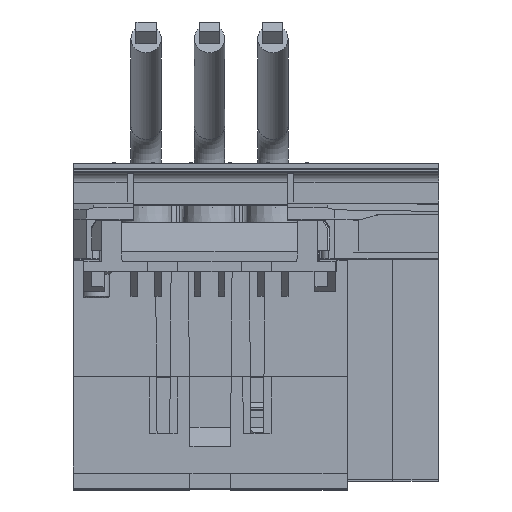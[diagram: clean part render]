
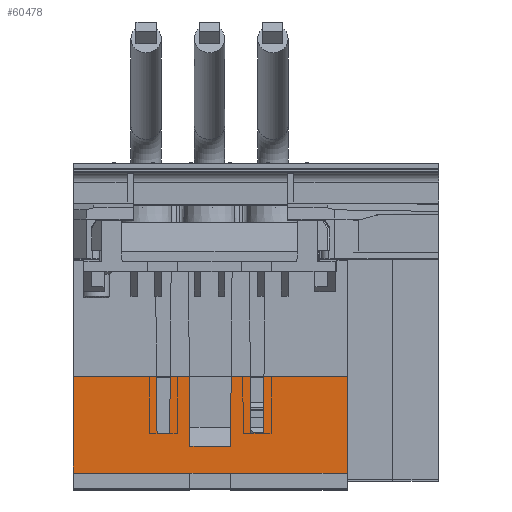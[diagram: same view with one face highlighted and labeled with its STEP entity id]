
A CAD part, top view. The second image highlights one B-rep face of the part: STEP entity #60478.
In plain terms, the highlighted planar face has unit normal (0, -0.009, 1).
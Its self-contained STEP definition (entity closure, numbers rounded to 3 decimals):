
#1130 = EDGE_CURVE ( 'NONE', #81500, #90103, #56334, .T. ) ;
#2274 = CARTESIAN_POINT ( 'NONE',  ( -4.003, -18.18, 199.88 ) ) ;
#2302 = ORIENTED_EDGE ( 'NONE', *, *, #47368, .T. ) ;
#3542 = VERTEX_POINT ( 'NONE', #24533 ) ;
#5337 = VERTEX_POINT ( 'NONE', #57671 ) ;
#6355 = ORIENTED_EDGE ( 'NONE', *, *, #41739, .T. ) ;
#6389 = ORIENTED_EDGE ( 'NONE', *, *, #45812, .T. ) ;
#7468 = CARTESIAN_POINT ( 'NONE',  ( -27., -4.5, 199.999 ) ) ;
#8445 = DIRECTION ( 'NONE',  ( 0., -0.009, 1. ) ) ;
#8819 = CARTESIAN_POINT ( 'NONE',  ( -4.122, -4.5, 199.999 ) ) ;
#9846 = CARTESIAN_POINT ( 'NONE',  ( -4.003, -18.18, 199.88 ) ) ;
#10054 = LINE ( 'NONE', #13411, #95370 ) ;
#12290 = VECTOR ( 'NONE', #109488, 1000. ) ;
#12549 = LINE ( 'NONE', #18723, #51554 ) ;
#12723 = LINE ( 'NONE', #2274, #63331 ) ;
#13411 = CARTESIAN_POINT ( 'NONE',  ( -26., -18.18, 199.88 ) ) ;
#14611 = EDGE_CURVE ( 'NONE', #39818, #22008, #55502, .T. ) ;
#15810 = FACE_OUTER_BOUND ( 'NONE', #45663, .T. ) ;
#16671 = CARTESIAN_POINT ( 'NONE',  ( -26., -23.5, 199.833 ) ) ;
#17162 = EDGE_CURVE ( 'NONE', #5337, #94324, #63637, .T. ) ;
#18723 = CARTESIAN_POINT ( 'NONE',  ( -26., -15.7, 199.902 ) ) ;
#20590 = CARTESIAN_POINT ( 'NONE',  ( 10.778, 16.2, 200.18 ) ) ;
#22008 = VERTEX_POINT ( 'NONE', #51930 ) ;
#24304 = ORIENTED_EDGE ( 'NONE', *, *, #14611, .F. ) ;
#24441 = CARTESIAN_POINT ( 'NONE',  ( -10.5, -15.7, 199.902 ) ) ;
#24533 = CARTESIAN_POINT ( 'NONE',  ( 10.598, -4.5, 199.999 ) ) ;
#25458 = LINE ( 'NONE', #47133, #31195 ) ;
#25787 = DIRECTION ( 'NONE',  ( 1., 0., 0. ) ) ;
#26956 = VERTEX_POINT ( 'NONE', #45441 ) ;
#27709 = VECTOR ( 'NONE', #71106, 1000. ) ;
#28020 = CARTESIAN_POINT ( 'NONE',  ( -27., -23.5, 199.833 ) ) ;
#30930 = CARTESIAN_POINT ( 'NONE',  ( -26., -4.5, 199.999 ) ) ;
#31195 = VECTOR ( 'NONE', #58480, 1000. ) ;
#31345 = LINE ( 'NONE', #95664, #80571 ) ;
#32048 = ORIENTED_EDGE ( 'NONE', *, *, #116477, .T. ) ;
#32085 = LINE ( 'NONE', #16671, #42309 ) ;
#32114 = CARTESIAN_POINT ( 'NONE',  ( 4.003, -18.18, 199.88 ) ) ;
#32559 = VECTOR ( 'NONE', #71336, 1000. ) ;
#34275 = CARTESIAN_POINT ( 'NONE',  ( -10.5, -15.7, 199.902 ) ) ;
#35105 = LINE ( 'NONE', #58699, #56858 ) ;
#36152 = VECTOR ( 'NONE', #85270, 1000. ) ;
#37195 = ORIENTED_EDGE ( 'NONE', *, *, #17162, .F. ) ;
#38276 = CARTESIAN_POINT ( 'NONE',  ( -4., -23.5, 199.833 ) ) ;
#39818 = VERTEX_POINT ( 'NONE', #7468 ) ;
#40953 = CARTESIAN_POINT ( 'NONE',  ( -26., -4.5, 199.999 ) ) ;
#41739 = EDGE_CURVE ( 'NONE', #48025, #70082, #12723, .T. ) ;
#42309 = VECTOR ( 'NONE', #81324, 1000. ) ;
#44418 = EDGE_CURVE ( 'NONE', #67951, #22008, #49983, .T. ) ;
#44824 = VERTEX_POINT ( 'NONE', #105492 ) ;
#45083 = EDGE_CURVE ( 'NONE', #44824, #67951, #119271, .T. ) ;
#45441 = CARTESIAN_POINT ( 'NONE',  ( 10.5, -15.7, 199.902 ) ) ;
#45663 = EDGE_LOOP ( 'NONE', ( #24304, #6389, #53981, #58133, #52002, #51352, #96097, #76040, #56636, #2302, #37195, #61844, #32048, #6355, #105772, #116384, #104432, #75438 ) ) ;
#45812 = EDGE_CURVE ( 'NONE', #39818, #48089, #54061, .T. ) ;
#46448 = EDGE_CURVE ( 'NONE', #90869, #44824, #35105, .T. ) ;
#47133 = CARTESIAN_POINT ( 'NONE',  ( 4.303, 16.2, 200.18 ) ) ;
#47368 = EDGE_CURVE ( 'NONE', #110929, #94324, #81309, .T. ) ;
#47680 = VECTOR ( 'NONE', #68885, 1000. ) ;
#48025 = VERTEX_POINT ( 'NONE', #9846 ) ;
#48089 = VERTEX_POINT ( 'NONE', #28020 ) ;
#48683 = CARTESIAN_POINT ( 'NONE',  ( -27., 18.5, 200.2 ) ) ;
#48921 = VECTOR ( 'NONE', #25787, 1000. ) ;
#49983 = LINE ( 'NONE', #24441, #32559 ) ;
#51352 = ORIENTED_EDGE ( 'NONE', *, *, #74484, .T. ) ;
#51554 = VECTOR ( 'NONE', #74050, 1000. ) ;
#51930 = CARTESIAN_POINT ( 'NONE',  ( -10.598, -4.5, 199.999 ) ) ;
#52002 = ORIENTED_EDGE ( 'NONE', *, *, #1130, .T. ) ;
#53273 = DIRECTION ( 'NONE',  ( 0., 1., 0.009 ) ) ;
#53668 = CARTESIAN_POINT ( 'NONE',  ( 27., 18.5, 200.2 ) ) ;
#53981 = ORIENTED_EDGE ( 'NONE', *, *, #95976, .T. ) ;
#54061 = LINE ( 'NONE', #48683, #72818 ) ;
#55120 = VERTEX_POINT ( 'NONE', #38276 ) ;
#55244 = EDGE_CURVE ( 'NONE', #90869, #70082, #31345, .T. ) ;
#55502 = LINE ( 'NONE', #30930, #95912 ) ;
#56334 = LINE ( 'NONE', #87052, #102480 ) ;
#56636 = ORIENTED_EDGE ( 'NONE', *, *, #107790, .T. ) ;
#56858 = VECTOR ( 'NONE', #59084, 1000. ) ;
#57671 = CARTESIAN_POINT ( 'NONE',  ( 4.122, -4.5, 199.999 ) ) ;
#58133 = ORIENTED_EDGE ( 'NONE', *, *, #58273, .T. ) ;
#58273 = EDGE_CURVE ( 'NONE', #55120, #81500, #32085, .T. ) ;
#58480 = DIRECTION ( 'NONE',  ( -0.009, -1., -0.009 ) ) ;
#58699 = CARTESIAN_POINT ( 'NONE',  ( -7.722, 16.2, 200.18 ) ) ;
#59084 = DIRECTION ( 'NONE',  ( -0.009, -1., -0.009 ) ) ;
#60478 = ADVANCED_FACE ( 'NONE', ( #15810 ), #79651, .T. ) ;
#60488 = CARTESIAN_POINT ( 'NONE',  ( 7.902, -4.5, 199.999 ) ) ;
#61844 = ORIENTED_EDGE ( 'NONE', *, *, #63973, .T. ) ;
#62260 = CARTESIAN_POINT ( 'NONE',  ( 4., -23.5, 199.833 ) ) ;
#63331 = VECTOR ( 'NONE', #85164, 1000. ) ;
#63637 = LINE ( 'NONE', #40953, #47680 ) ;
#63744 = LINE ( 'NONE', #20590, #36152 ) ;
#63973 = EDGE_CURVE ( 'NONE', #5337, #101042, #25458, .T. ) ;
#67299 = DIRECTION ( 'NONE',  ( 0., -1., -0.009 ) ) ;
#67951 = VERTEX_POINT ( 'NONE', #34275 ) ;
#68885 = DIRECTION ( 'NONE',  ( 1., 0., 0. ) ) ;
#70082 = VERTEX_POINT ( 'NONE', #8819 ) ;
#71106 = DIRECTION ( 'NONE',  ( -0.009, 1., 0.009 ) ) ;
#71336 = DIRECTION ( 'NONE',  ( -0.009, 1., 0.009 ) ) ;
#71582 = EDGE_CURVE ( 'NONE', #3542, #92288, #73516, .T. ) ;
#72818 = VECTOR ( 'NONE', #67299, 1000. ) ;
#73516 = LINE ( 'NONE', #116672, #48921 ) ;
#73923 = CARTESIAN_POINT ( 'NONE',  ( -26., -15.7, 199.902 ) ) ;
#74050 = DIRECTION ( 'NONE',  ( -1., 0., 0. ) ) ;
#74484 = EDGE_CURVE ( 'NONE', #90103, #92288, #90612, .T. ) ;
#75438 = ORIENTED_EDGE ( 'NONE', *, *, #44418, .T. ) ;
#76040 = ORIENTED_EDGE ( 'NONE', *, *, #79240, .T. ) ;
#78129 = DIRECTION ( 'NONE',  ( 1., 0., 0. ) ) ;
#79240 = EDGE_CURVE ( 'NONE', #3542, #26956, #63744, .T. ) ;
#79651 = PLANE ( 'NONE',  #87919 ) ;
#80571 = VECTOR ( 'NONE', #114630, 1000. ) ;
#81309 = LINE ( 'NONE', #100101, #27709 ) ;
#81324 = DIRECTION ( 'NONE',  ( 1., 0., 0. ) ) ;
#81500 = VERTEX_POINT ( 'NONE', #62260 ) ;
#83817 = CARTESIAN_POINT ( 'NONE',  ( 4., -23.5, 199.833 ) ) ;
#85164 = DIRECTION ( 'NONE',  ( -0.009, 1., 0.009 ) ) ;
#85270 = DIRECTION ( 'NONE',  ( -0.009, -1., -0.009 ) ) ;
#85512 = CARTESIAN_POINT ( 'NONE',  ( -7.902, -4.5, 199.999 ) ) ;
#87052 = CARTESIAN_POINT ( 'NONE',  ( -26., -23.5, 199.833 ) ) ;
#87919 = AXIS2_PLACEMENT_3D ( 'NONE', #110640, #8445, #91296 ) ;
#90103 = VERTEX_POINT ( 'NONE', #98589 ) ;
#90612 = LINE ( 'NONE', #53668, #112219 ) ;
#90869 = VERTEX_POINT ( 'NONE', #85512 ) ;
#91281 = VECTOR ( 'NONE', #102316, 1000. ) ;
#91296 = DIRECTION ( 'NONE',  ( 0., -1., -0.009 ) ) ;
#92288 = VERTEX_POINT ( 'NONE', #113887 ) ;
#94324 = VERTEX_POINT ( 'NONE', #60488 ) ;
#95370 = VECTOR ( 'NONE', #114391, 1000. ) ;
#95664 = CARTESIAN_POINT ( 'NONE',  ( -26., -4.5, 199.999 ) ) ;
#95912 = VECTOR ( 'NONE', #104456, 1000. ) ;
#95976 = EDGE_CURVE ( 'NONE', #48089, #55120, #101315, .T. ) ;
#96097 = ORIENTED_EDGE ( 'NONE', *, *, #71582, .F. ) ;
#98295 = CARTESIAN_POINT ( 'NONE',  ( 8., -15.7, 199.902 ) ) ;
#98589 = CARTESIAN_POINT ( 'NONE',  ( 27., -23.5, 199.833 ) ) ;
#100101 = CARTESIAN_POINT ( 'NONE',  ( 8., -15.7, 199.902 ) ) ;
#101042 = VERTEX_POINT ( 'NONE', #32114 ) ;
#101315 = LINE ( 'NONE', #83817, #91281 ) ;
#102316 = DIRECTION ( 'NONE',  ( 1., 0., 0. ) ) ;
#102480 = VECTOR ( 'NONE', #78129, 1000. ) ;
#104432 = ORIENTED_EDGE ( 'NONE', *, *, #45083, .T. ) ;
#104456 = DIRECTION ( 'NONE',  ( 1., 0., 0. ) ) ;
#105492 = CARTESIAN_POINT ( 'NONE',  ( -8., -15.7, 199.902 ) ) ;
#105772 = ORIENTED_EDGE ( 'NONE', *, *, #55244, .F. ) ;
#107790 = EDGE_CURVE ( 'NONE', #26956, #110929, #12549, .T. ) ;
#109488 = DIRECTION ( 'NONE',  ( -1., 0., 0. ) ) ;
#110640 = CARTESIAN_POINT ( 'NONE',  ( -26., 18.5, 200.2 ) ) ;
#110929 = VERTEX_POINT ( 'NONE', #98295 ) ;
#112219 = VECTOR ( 'NONE', #53273, 1000. ) ;
#113887 = CARTESIAN_POINT ( 'NONE',  ( 27., -4.5, 199.999 ) ) ;
#114391 = DIRECTION ( 'NONE',  ( -1., 0., 0. ) ) ;
#114630 = DIRECTION ( 'NONE',  ( 1., 0., 0. ) ) ;
#116384 = ORIENTED_EDGE ( 'NONE', *, *, #46448, .T. ) ;
#116477 = EDGE_CURVE ( 'NONE', #101042, #48025, #10054, .T. ) ;
#116672 = CARTESIAN_POINT ( 'NONE',  ( -26., -4.5, 199.999 ) ) ;
#119271 = LINE ( 'NONE', #73923, #12290 ) ;
